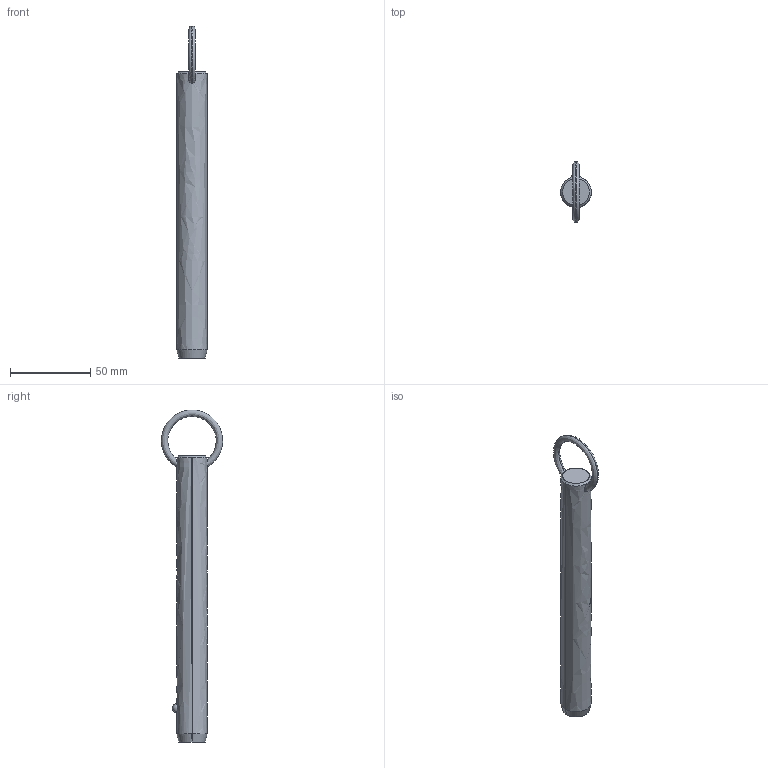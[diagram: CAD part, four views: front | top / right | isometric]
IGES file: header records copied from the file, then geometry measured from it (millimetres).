
Start section: SolidWorks IGES file using analytic representation for surfaces
Global section: file name: C:\Users\liam_\OneDrive\Documents\WORK\Work for WixRoyd\Job Files\J-00019 - Matt Davis CAD Checking\04. CAD Drawings\automotion20190605\P1250.2_v2\P1250.2_v2_20190729_IGES\P1250.075-570.igs; native system: SolidWorks 2017; preprocessor: SolidWorks 2017; author: liam_; date: 190729.235805; units: millimetre
Bounding box: 19 x 38.1 x 206.59 mm (x, y, z)
Surface area: 12157.7 mm2 (no closed solid volume)
Topology: 0 solids, 0 shells, 12 faces, 294 edges, 292 vertices
Faces by surface type: revolution 8, bspline 4
